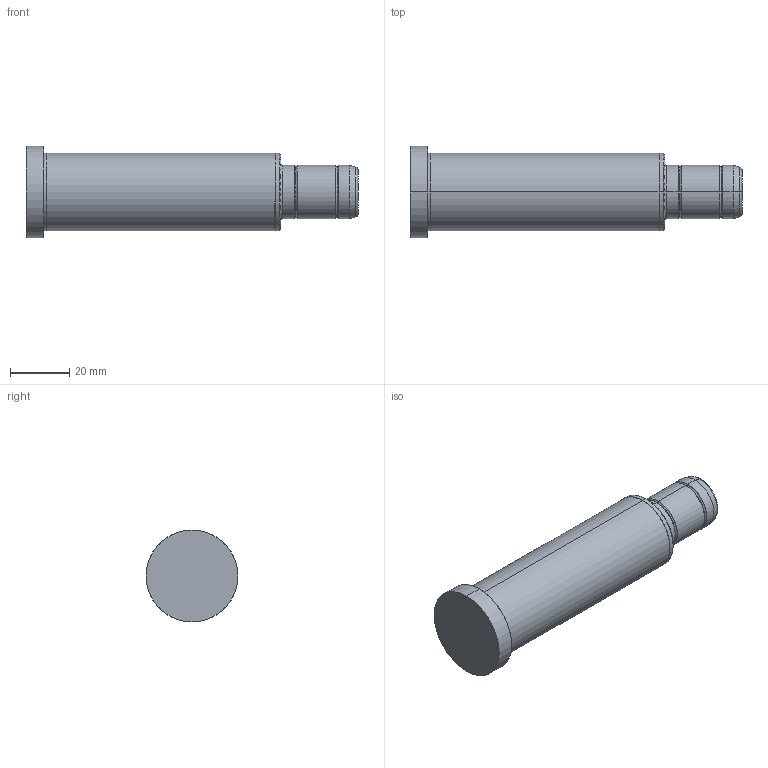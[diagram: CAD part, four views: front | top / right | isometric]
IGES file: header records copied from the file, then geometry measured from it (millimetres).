
Start section: SolidWorks IGES file using analytic representation for surfaces
Global section: file name: C:\Documents and Settings\kalite-mail\Desktop\IGS\D02\18\D02 - 18x86x26.IGS; native system: SolidWorks 2008; preprocessor: SolidWorks 2008; author: kalite-mail; date: 080616.155847; units: millimetre
Bounding box: 112 x 31 x 31 mm (x, y, z)
Surface area: 10069.9 mm2 (no closed solid volume)
Topology: 0 solids, 0 shells, 36 faces, 504 edges, 504 vertices
Faces by surface type: bspline 18, revolution 18
